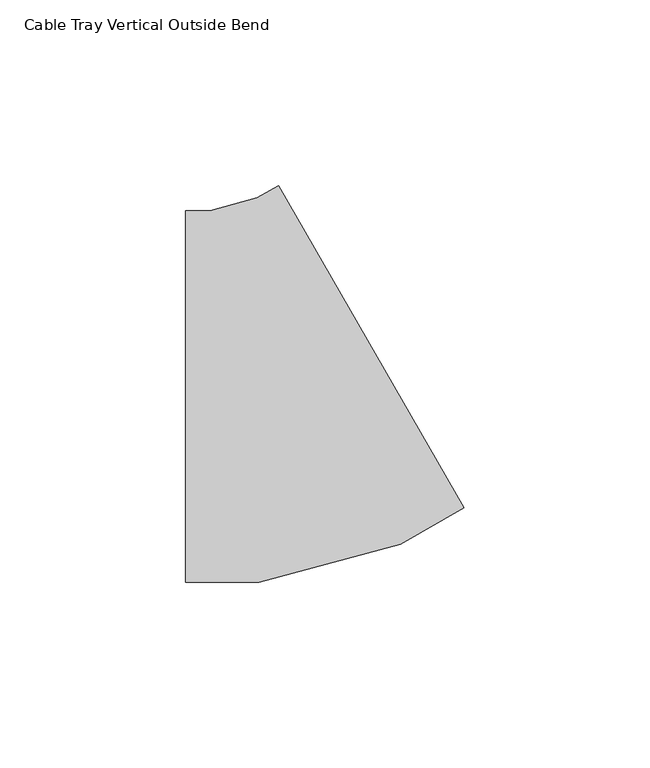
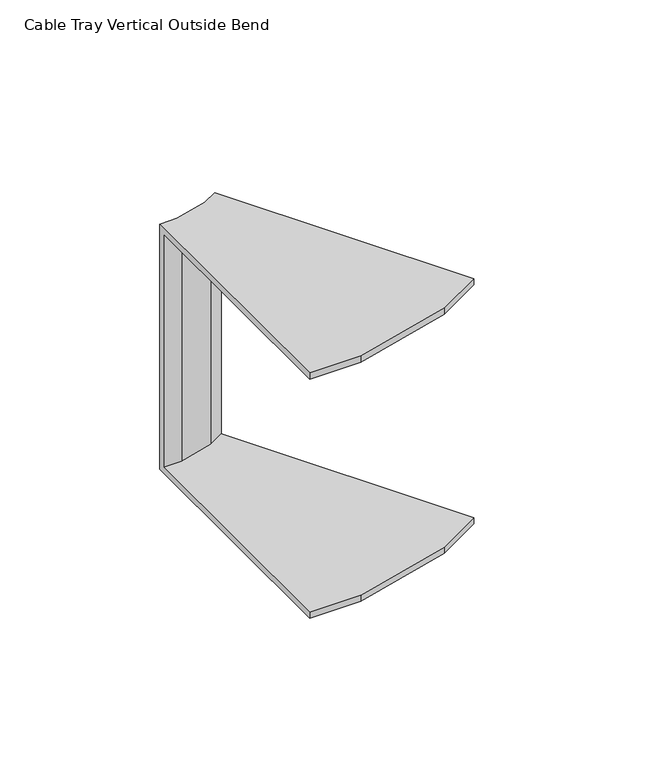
"""IFC4 building model written with IfcOpenShell, lengths in millimetres: cable carrier fitting geometry, Cable Tray Vertical Outside Bend : ELEC_ELV_TKG_N2402."""

from ifc_helpers import new_model, si_unit, origin, place, context, project, spatial, faceted_brep, source, transform, mapped, element, save


def cable_tray_vertical_outside_bend_fd5c28ad(model_context):
    return source(origin(), model_context, "Body", "Brep", [
        faceted_brep([(-26.7949182, -50.0, 50.0), (-26.7949182, 50.0, 50.0), (-26.7949182, 50.0, -50.0), (-26.7949182, -50.0, -50.0), (-26.7949182, -50.0, -47.46), (-26.7949182, 47.46, -47.46), (-26.7949182, 47.46, 47.46), (-26.7949182, -50.0, 47.46), (48.2050793, -29.903812, 50.0), (48.2050793, -29.903812, 47.46), (-0.5249191, 54.4990248, 47.46), (-0.5249191, 54.4990248, -47.46), (48.2050793, -29.903812, -47.46), (48.2050793, -29.903812, -50.0), (-1.7949191, 56.6987293, -50.0), (-1.7949191, 56.6987293, 50.0), (-7.0470443, -50.0, 50.0), (31.1029187, -39.7777486, 50.0), (-7.4956393, 53.4074171, 50.0), (-20.2122936, 50.0, 50.0), (-20.2122936, 50.0, -50.0), (-7.4956393, 53.4074171, -50.0), (31.1029187, -39.7777486, -50.0), (-7.0470443, -50.0, -50.0), (-7.0470443, -50.0, -47.46), (31.1029187, -39.7777486, -47.46), (-6.5152359, 51.0405139, -47.46), (-19.8778963, 47.46, -47.46), (-19.8778963, 47.46, 47.46), (-6.5152359, 51.0405139, 47.46), (31.1029187, -39.7777486, 47.46), (-7.0470443, -50.0, 47.46)], [[[0, 1, 2, 3, 4, 5, 6, 7]], [[8, 9, 10, 11, 12, 13, 14, 15]], [[1, 0, 16, 17, 8, 15, 18, 19]], [[2, 1, 19, 20]], [[3, 2, 20, 21, 14, 13, 22, 23]], [[4, 3, 23, 24]], [[5, 4, 24, 25, 12, 11, 26, 27]], [[6, 5, 27, 28]], [[7, 6, 28, 29, 10, 9, 30, 31]], [[0, 7, 31, 16]], [[20, 19, 18, 21]], [[24, 23, 22, 25]], [[28, 27, 26, 29]], [[16, 31, 30, 17]], [[21, 18, 15, 14]], [[25, 22, 13, 12]], [[29, 26, 11, 10]], [[17, 30, 9, 8]]]),
    ])


if __name__ == "__main__":
    model = new_model("IFC4")
    model_context = context("Model", 3, world=origin())
    ifc_project = project(units=[si_unit("LENGTHUNIT", "METRE", prefix="MILLI")], contexts=[model_context])
    site = spatial("IfcSite", under=ifc_project)
    building = spatial("IfcBuilding", under=site)
    placement = place(None, origin())
    cable_tray_vertical_outside_bend_shape = cable_tray_vertical_outside_bend_fd5c28ad(model_context)
    element("IfcCableCarrierFitting", 1, ObjectType="Cable Tray Vertical Outside Bend : ELEC_ELV_TKG_N2402", at=placement, inside=building, context=model_context, shape_type="MappedRepresentation", body=[
        mapped(cable_tray_vertical_outside_bend_shape, transform((0.0, 0.0, 0.0), x_axis=(1.0, 0.0, 0.0), y_axis=(0.0, 1.0, 0.0), z_axis=(0.0, 0.0, 1.0))),
    ])
    save(model, "model.ifc")
